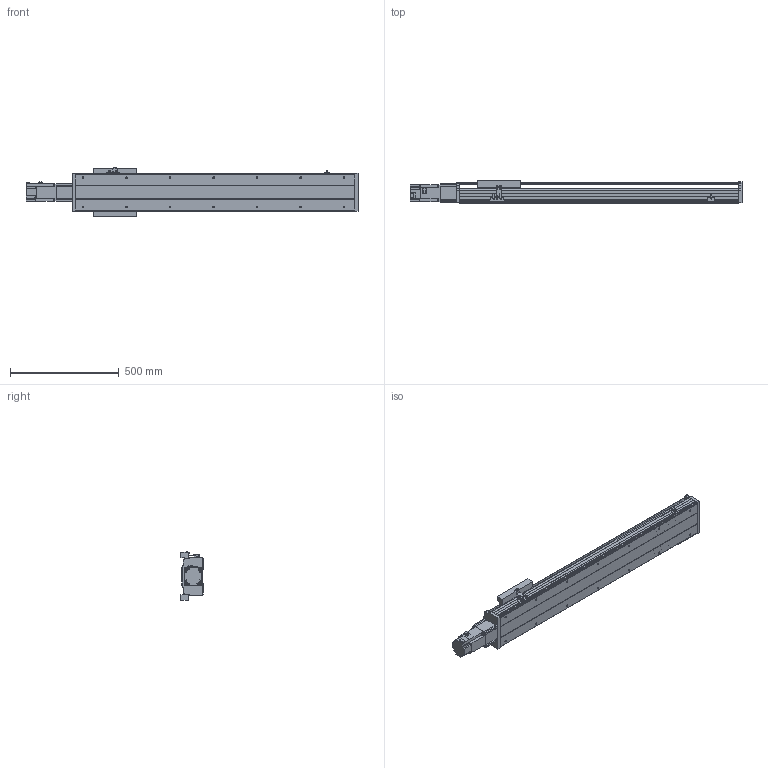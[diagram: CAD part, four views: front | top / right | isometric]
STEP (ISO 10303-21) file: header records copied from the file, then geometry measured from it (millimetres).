
FILE_DESCRIPTION(/* description */ ('STEP AP214'),/* implementation_level */ '2;1');
FILE_NAME(/* name */ 'PSS200-L10-S950-BC-T75-C1-N(0)',/* time_stamp */ '2022-06-06T04:36:56+02:00',/* author */ ('License CC BY-ND 4.0'),/* organization */ ('CADENAS'),/* preprocessor_version */ 'ST-DEVELOPER v18.102',/* originating_system */ 'PARTsolutions',/* authorisation */ ' ');
FILE_SCHEMA (('AUTOMOTIVE_DESIGN {1 0 10303 214 3 1 1}'));
Length unit declared in the file: millimetre
Products named in the file (8): PSS200-L10-S950-BC-T75-C1-N(0); PSS200-S950-BC-N_S; T75-p1; PSS200BC-N_h; PSS200-N_sensor; PSS200-BC-C1-N_sl; PSS200-N_Q; PSS200-S950-BC-C1-N_body
Assembly tree (9 placements, depth 2):
  PSS200-L10-S950-BC-T75-C1-N(0)
    PSS200-S950-BC-N_S
    T75-p1
    PSS200BC-N_h
    PSS200-N_sensor  x3
    PSS200-BC-C1-N_sl
    PSS200-N_Q
    PSS200-S950-BC-C1-N_body
Bounding box: 1526.3 x 101.5 x 223.86 mm (x, y, z)
Volume: 8376500.3 mm3; surface area: 2133773.4 mm2
Topology: 9 solids, 9 shells, 581 faces, 1555 edges, 1032 vertices
Faces by surface type: plane 439, cylinder 120, cone 22
Full cylindrical faces by diameter (mm): 4 x2, 4.5 x4, 6 x11, 6.647 x18, 8 x8, 10 x6, 25 x1, 67 x1, 70 x1
Entity records: 16166 total; most frequent: CARTESIAN_POINT 2796, DIRECTION 2661, ORIENTED_EDGE 2642, EDGE_CURVE 1321, LINE 1051, VECTOR 1051, VERTEX_POINT 920, AXIS2_PLACEMENT_3D 805
